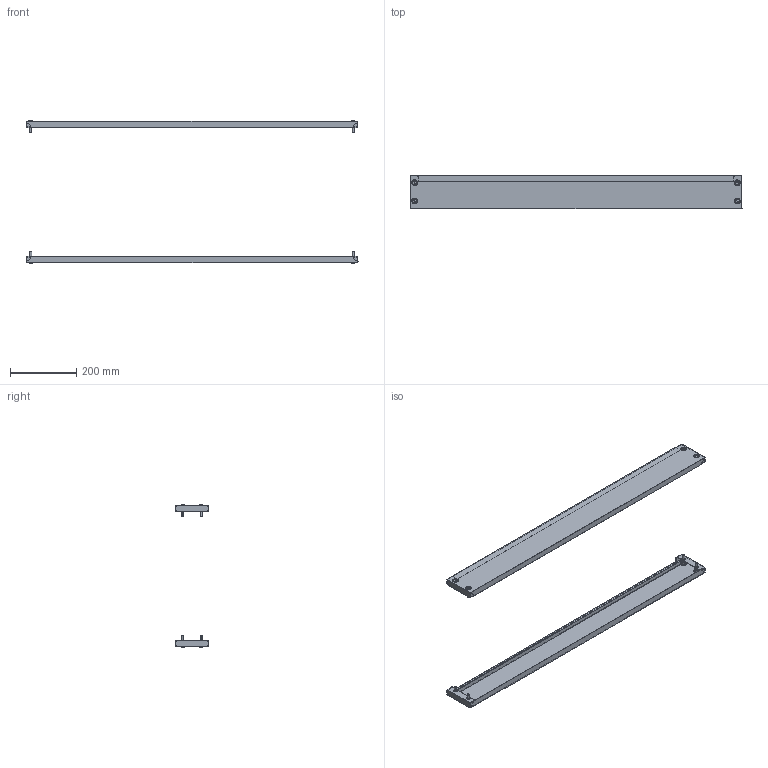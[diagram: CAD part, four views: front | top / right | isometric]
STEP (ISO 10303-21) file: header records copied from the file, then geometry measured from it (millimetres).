
FILE_DESCRIPTION (( 'STEP AP203' ), '1' );
FILE_NAME ('R5FZ1-450.STEP', '2025-06-18T08:40:53', ( '' ), ( '' ), 'SwSTEP 2.0', 'SolidWorks 2022', '' );
FILE_SCHEMA (( 'CONFIG_CONTROL_DESIGN' ));
Length unit declared in the file: millimetre
Products named in the file (5): RB.1055.00.00.0 simple_-04 (1000); R5FZ1-450; 6 DIN 6798 A Zinc; M6x16 DIN 912 HX cl.4,8 Zinc_stright; Plug_11.5-13Д18ЧК_-00
Assembly tree (26 placements, depth 2):
  R5FZ1-450
    RB.1055.00.00.0 simple_-04 (1000)  x2
    M6x16 DIN 912 HX cl.4,8 Zinc_stright  x8
    6 DIN 6798 A Zinc  x8
    Plug_11.5-13Д18ЧК_-00  x8
Bounding box: 999 x 100.05 x 428.5 mm (x, y, z)
Volume: 473580.9 mm3; surface area: 640543.7 mm2
Topology: 26 solids, 26 shells, 1196 faces, 3456 edges, 2112 vertices
Faces by surface type: plane 700, bspline 208, cylinder 128, cone 96, torus 48, sphere 16
Entity records: 9921 total; most frequent: CARTESIAN_POINT 2626, ORIENTED_EDGE 1352, DIRECTION 1188, EDGE_CURVE 676, VECTOR 448, LINE 448, VERTEX_POINT 444, AXIS2_PLACEMENT_3D 370
